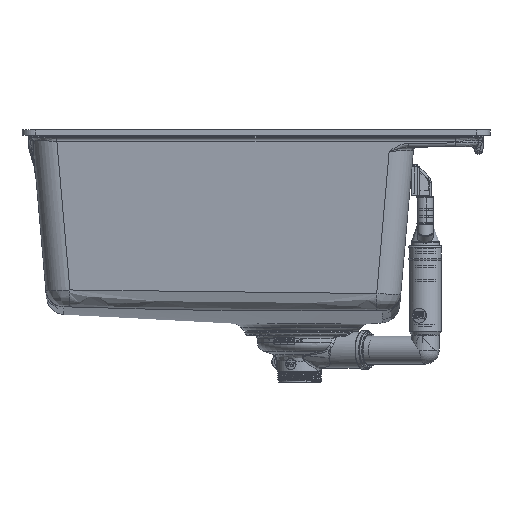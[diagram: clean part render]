
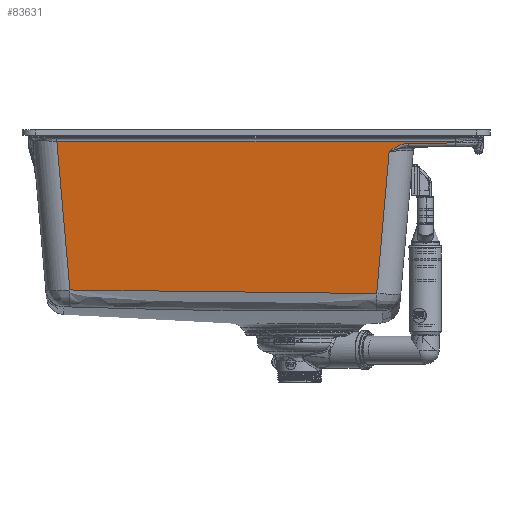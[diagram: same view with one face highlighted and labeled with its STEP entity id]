
A CAD part, front view. The second image highlights one B-rep face of the part: STEP entity #83631.
In plain terms, the highlighted planar face has unit normal (0, -0.996, -0.087).
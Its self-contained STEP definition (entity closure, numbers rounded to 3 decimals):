
#2264=B_SPLINE_CURVE_WITH_KNOTS('',3,(#118520,#118521,#118522,#118523,#118524,
#118525,#118526,#118527,#118528,#118529,#118530,#118531),.UNSPECIFIED.,
 .F.,.F.,(4,1,1,1,1,1,1,2,4),(0.,0.453,0.906,
1.358,1.585,1.811,2.038,2.264,
2.266),.UNSPECIFIED.);
#2266=B_SPLINE_CURVE_WITH_KNOTS('',3,(#118546,#118547,#118548,#118549,#118550),
 .UNSPECIFIED.,.F.,.F.,(4,1,4),(0.,14.136,32.985),
 .UNSPECIFIED.);
#5196=PLANE('',#89163);
#7931=FACE_OUTER_BOUND('',#12813,.T.);
#12813=EDGE_LOOP('',(#57668,#57669,#57670,#57671,#57672,#57673,#57674));
#17920=LINE('',#116385,#25523);
#17950=LINE('',#117551,#25553);
#17959=LINE('',#117700,#25562);
#17988=LINE('',#118458,#25591);
#17989=LINE('',#118551,#25592);
#25523=VECTOR('',#95627,10.);
#25553=VECTOR('',#95933,10.);
#25562=VECTOR('',#95976,10.);
#25591=VECTOR('',#96127,10.);
#25592=VECTOR('',#96130,10.);
#35626=VERTEX_POINT('',#116366);
#35630=VERTEX_POINT('',#116383);
#35722=VERTEX_POINT('',#117547);
#35730=VERTEX_POINT('',#117692);
#35779=VERTEX_POINT('',#118456);
#35780=VERTEX_POINT('',#118519);
#35781=VERTEX_POINT('',#118545);
#44061=EDGE_CURVE('',#35630,#35626,#17920,.T.);
#44223=EDGE_CURVE('',#35722,#35626,#17950,.T.);
#44243=EDGE_CURVE('',#35630,#35730,#17959,.T.);
#44325=EDGE_CURVE('',#35722,#35779,#17988,.T.);
#44326=EDGE_CURVE('',#35779,#35780,#2264,.T.);
#44328=EDGE_CURVE('',#35781,#35730,#2266,.T.);
#44329=EDGE_CURVE('',#35781,#35780,#17989,.T.);
#57668=ORIENTED_EDGE('',*,*,#44326,.F.);
#57669=ORIENTED_EDGE('',*,*,#44325,.F.);
#57670=ORIENTED_EDGE('',*,*,#44223,.T.);
#57671=ORIENTED_EDGE('',*,*,#44061,.F.);
#57672=ORIENTED_EDGE('',*,*,#44243,.T.);
#57673=ORIENTED_EDGE('',*,*,#44328,.F.);
#57674=ORIENTED_EDGE('',*,*,#44329,.T.);
#83631=ADVANCED_FACE('',(#7931),#5196,.T.);
#89163=AXIS2_PLACEMENT_3D('',#118544,#96128,#96129);
#95627=DIRECTION('',(1.,0.,0.));
#95933=DIRECTION('',(0.087,-0.087,0.992));
#95976=DIRECTION('',(0.087,0.087,-0.992));
#96127=DIRECTION('',(-1.,0.001,-0.009));
#96128=DIRECTION('center_axis',(0.,-0.996,
-0.087));
#96129=DIRECTION('ref_axis',(-1.,0.,0.));
#96130=DIRECTION('',(0.087,-0.087,0.992));
#116366=CARTESIAN_POINT('',(214.063,-364.964,-12.108));
#116383=CARTESIAN_POINT('',(-214.063,-364.964,-12.108));
#116385=CARTESIAN_POINT('',(82.5,-364.964,-12.108));
#117547=CARTESIAN_POINT('',(213.89,-364.791,-14.077));
#117551=CARTESIAN_POINT('',(213.605,-364.507,-17.333));
#117692=CARTESIAN_POINT('',(-200.065,-350.967,-172.095));
#117700=CARTESIAN_POINT('',(-213.719,-364.62,-16.04));
#118456=CARTESIAN_POINT('',(163.896,-364.753,-14.513));
#118458=CARTESIAN_POINT('',(199.944,-364.781,-14.198));
#118519=CARTESIAN_POINT('',(143.117,-364.019,-22.91));
#118520=CARTESIAN_POINT('Ctrl Pts',(163.896,-364.753,
-14.513));
#118521=CARTESIAN_POINT('Ctrl Pts',(162.386,-364.752,-14.526));
#118522=CARTESIAN_POINT('Ctrl Pts',(159.354,-364.718,-14.911));
#118523=CARTESIAN_POINT('Ctrl Pts',(155.005,-364.599,
-16.276));
#118524=CARTESIAN_POINT('Ctrl Pts',(151.586,-364.461,
-17.855));
#118525=CARTESIAN_POINT('Ctrl Pts',(148.924,-364.334,
-19.304));
#118526=CARTESIAN_POINT('Ctrl Pts',(146.965,-364.233,
-20.459));
#118527=CARTESIAN_POINT('Ctrl Pts',(145.036,-364.128,
-21.664));
#118528=CARTESIAN_POINT('Ctrl Pts',(143.767,-364.056,
-22.486));
#118529=CARTESIAN_POINT('Ctrl Pts',(143.13,-364.019,
-22.902));
#118530=CARTESIAN_POINT('Ctrl Pts',(143.124,-364.019,
-22.906));
#118531=CARTESIAN_POINT('Ctrl Pts',(143.117,-364.019,
-22.91));
#118544=CARTESIAN_POINT('Origin',(165.,-365.977,-0.523));
#118545=CARTESIAN_POINT('',(129.728,-350.629,-175.948));
#118546=CARTESIAN_POINT('Ctrl Pts',(129.728,-350.629,-175.948));
#118547=CARTESIAN_POINT('Ctrl Pts',(82.611,-350.578,
-176.539));
#118548=CARTESIAN_POINT('Ctrl Pts',(-27.345,-350.561,
-176.726));
#118549=CARTESIAN_POINT('Ctrl Pts',(-137.269,-350.793,
-174.079));
#118550=CARTESIAN_POINT('Ctrl Pts',(-200.065,-350.967,
-172.095));
#118551=CARTESIAN_POINT('',(142.512,-363.413,-29.827));
